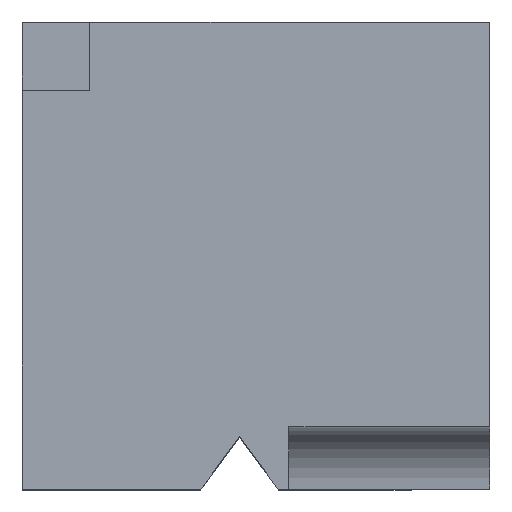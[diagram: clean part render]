
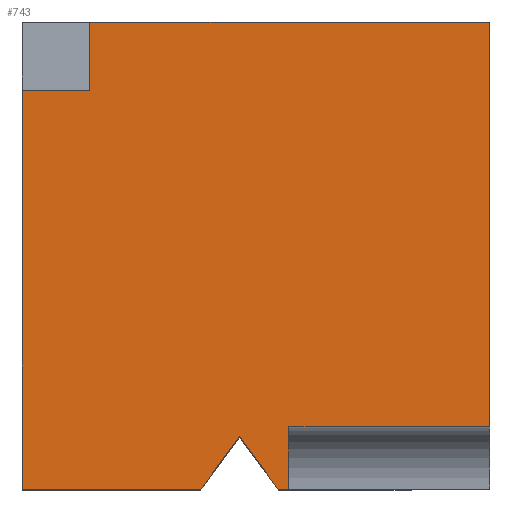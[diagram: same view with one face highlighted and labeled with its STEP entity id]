
A CAD part, top view. The second image highlights one B-rep face of the part: STEP entity #743.
In plain terms, the highlighted planar face has unit normal (0, 0, 1).
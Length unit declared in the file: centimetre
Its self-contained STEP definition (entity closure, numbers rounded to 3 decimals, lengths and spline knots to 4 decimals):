
#23 = ORIENTED_EDGE ( 'NONE', *, *, #131, .T. ) ;
#71 = VERTEX_POINT ( 'NONE', #150 ) ;
#108 = DIRECTION ( 'NONE',  ( 0., 1., 0. ) ) ;
#131 = EDGE_CURVE ( 'NONE', #1203, #835, #1064, .T. ) ;
#133 = LINE ( 'NONE', #589, #760 ) ;
#147 = DIRECTION ( 'NONE',  ( 1., 0., 0. ) ) ;
#150 = CARTESIAN_POINT ( 'NONE',  ( 570.5301, 0., 1000. ) ) ;
#178 = EDGE_CURVE ( 'NONE', #1368, #602, #268, .T. ) ;
#181 = ORIENTED_EDGE ( 'NONE', *, *, #902, .F. ) ;
#218 = EDGE_CURVE ( 'NONE', #71, #819, #1070, .T. ) ;
#219 = CARTESIAN_POINT ( 'NONE',  ( 570.5301, 133.3409, 1000. ) ) ;
#255 = CARTESIAN_POINT ( 'NONE',  ( 0., 1000., 1000. ) ) ;
#256 = DIRECTION ( 'NONE',  ( 0.592, -0.806, 0. ) ) ;
#268 = LINE ( 'NONE', #506, #1190 ) ;
#284 = CARTESIAN_POINT ( 'NONE',  ( 547.4082, 0., 1000. ) ) ;
#290 = ORIENTED_EDGE ( 'NONE', *, *, #218, .T. ) ;
#291 = DIRECTION ( 'NONE',  ( 0., 1., 0. ) ) ;
#320 = ORIENTED_EDGE ( 'NONE', *, *, #1396, .F. ) ;
#331 = CARTESIAN_POINT ( 'NONE',  ( 0., 0., 1000. ) ) ;
#340 = CARTESIAN_POINT ( 'NONE',  ( 382.0834, 0., 1000. ) ) ;
#356 = VECTOR ( 'NONE', #783, 100. ) ;
#433 = EDGE_CURVE ( 'NONE', #498, #969, #895, .T. ) ;
#454 = EDGE_CURVE ( 'NONE', #498, #1203, #794, .T. ) ;
#459 = VECTOR ( 'NONE', #1138, 100. ) ;
#478 = VECTOR ( 'NONE', #845, 100. ) ;
#498 = VERTEX_POINT ( 'NONE', #1144 ) ;
#506 = CARTESIAN_POINT ( 'NONE',  ( 1000., 1000., 1000. ) ) ;
#589 = CARTESIAN_POINT ( 'NONE',  ( 464.7458, 112.6321, 1000. ) ) ;
#602 = VERTEX_POINT ( 'NONE', #1192 ) ;
#659 = ORIENTED_EDGE ( 'NONE', *, *, #433, .F. ) ;
#674 = LINE ( 'NONE', #1236, #978 ) ;
#686 = CARTESIAN_POINT ( 'NONE',  ( 382.0834, 0., 1000. ) ) ;
#705 = DIRECTION ( 'NONE',  ( 1., 0., 0. ) ) ;
#743 = ADVANCED_FACE ( 'NONE', ( #988 ), #1320, .T. ) ;
#760 = VECTOR ( 'NONE', #256, 100. ) ;
#783 = DIRECTION ( 'NONE',  ( 1., 0., 0. ) ) ;
#785 = CARTESIAN_POINT ( 'NONE',  ( 144.1304, 1000., 1000. ) ) ;
#790 = LINE ( 'NONE', #886, #1163 ) ;
#794 = LINE ( 'NONE', #255, #1148 ) ;
#799 = CARTESIAN_POINT ( 'NONE',  ( 570.5301, 133.3409, 1000. ) ) ;
#814 = VECTOR ( 'NONE', #147, 100. ) ;
#815 = DIRECTION ( 'NONE',  ( 0., -1., 0. ) ) ;
#819 = VERTEX_POINT ( 'NONE', #219 ) ;
#835 = VERTEX_POINT ( 'NONE', #340 ) ;
#845 = DIRECTION ( 'NONE',  ( 0., 1., 0. ) ) ;
#858 = VERTEX_POINT ( 'NONE', #785 ) ;
#886 = CARTESIAN_POINT ( 'NONE',  ( 0., 1000., 1000. ) ) ;
#895 = LINE ( 'NONE', #1345, #356 ) ;
#901 = LINE ( 'NONE', #686, #459 ) ;
#902 = EDGE_CURVE ( 'NONE', #1368, #819, #1361, .T. ) ;
#904 = CARTESIAN_POINT ( 'NONE',  ( 144.1304, 853.1867, 1000. ) ) ;
#907 = VECTOR ( 'NONE', #1124, 100. ) ;
#946 = ORIENTED_EDGE ( 'NONE', *, *, #1414, .T. ) ;
#952 = ORIENTED_EDGE ( 'NONE', *, *, #1200, .T. ) ;
#963 = CARTESIAN_POINT ( 'NONE',  ( 570.5301, 0., 1000. ) ) ;
#969 = VERTEX_POINT ( 'NONE', #904 ) ;
#978 = VECTOR ( 'NONE', #108, 100. ) ;
#988 = FACE_OUTER_BOUND ( 'NONE', #1131, .T. ) ;
#998 = DIRECTION ( 'NONE',  ( -1., 0., 0. ) ) ;
#1002 = EDGE_CURVE ( 'NONE', #1427, #1143, #133, .T. ) ;
#1011 = CARTESIAN_POINT ( 'NONE',  ( 464.7458, 112.6321, 1000. ) ) ;
#1055 = CARTESIAN_POINT ( 'NONE',  ( 0., 0., 1000. ) ) ;
#1064 = LINE ( 'NONE', #1055, #814 ) ;
#1070 = LINE ( 'NONE', #963, #478 ) ;
#1086 = ORIENTED_EDGE ( 'NONE', *, *, #454, .T. ) ;
#1100 = DIRECTION ( 'NONE',  ( 0., 0., 1. ) ) ;
#1101 = ORIENTED_EDGE ( 'NONE', *, *, #178, .T. ) ;
#1124 = DIRECTION ( 'NONE',  ( -1., 0., 0. ) ) ;
#1131 = EDGE_LOOP ( 'NONE', ( #320, #659, #1086, #23, #1415, #1448, #952, #290, #181, #1101, #946 ) ) ;
#1138 = DIRECTION ( 'NONE',  ( 0.592, 0.806, 0. ) ) ;
#1143 = VERTEX_POINT ( 'NONE', #284 ) ;
#1144 = CARTESIAN_POINT ( 'NONE',  ( 0., 853.1867, 1000. ) ) ;
#1148 = VECTOR ( 'NONE', #815, 100. ) ;
#1149 = CARTESIAN_POINT ( 'NONE',  ( 0., 0., 1000. ) ) ;
#1163 = VECTOR ( 'NONE', #998, 100. ) ;
#1190 = VECTOR ( 'NONE', #291, 100. ) ;
#1192 = CARTESIAN_POINT ( 'NONE',  ( 1000., 1000., 1000. ) ) ;
#1200 = EDGE_CURVE ( 'NONE', #1143, #71, #1287, .T. ) ;
#1203 = VERTEX_POINT ( 'NONE', #1403 ) ;
#1212 = DIRECTION ( 'NONE',  ( 1., 0., 0. ) ) ;
#1236 = CARTESIAN_POINT ( 'NONE',  ( 144.1304, 853.1867, 1000. ) ) ;
#1287 = LINE ( 'NONE', #1149, #1356 ) ;
#1320 = PLANE ( 'NONE',  #1381 ) ;
#1345 = CARTESIAN_POINT ( 'NONE',  ( 0., 853.1867, 1000. ) ) ;
#1356 = VECTOR ( 'NONE', #705, 100. ) ;
#1361 = LINE ( 'NONE', #799, #907 ) ;
#1368 = VERTEX_POINT ( 'NONE', #1417 ) ;
#1381 = AXIS2_PLACEMENT_3D ( 'NONE', #331, #1100, #1212 ) ;
#1396 = EDGE_CURVE ( 'NONE', #969, #858, #674, .T. ) ;
#1403 = CARTESIAN_POINT ( 'NONE',  ( 0., 0., 1000. ) ) ;
#1414 = EDGE_CURVE ( 'NONE', #602, #858, #790, .T. ) ;
#1415 = ORIENTED_EDGE ( 'NONE', *, *, #1453, .T. ) ;
#1417 = CARTESIAN_POINT ( 'NONE',  ( 1000., 133.3409, 1000. ) ) ;
#1427 = VERTEX_POINT ( 'NONE', #1011 ) ;
#1448 = ORIENTED_EDGE ( 'NONE', *, *, #1002, .T. ) ;
#1453 = EDGE_CURVE ( 'NONE', #835, #1427, #901, .T. ) ;
